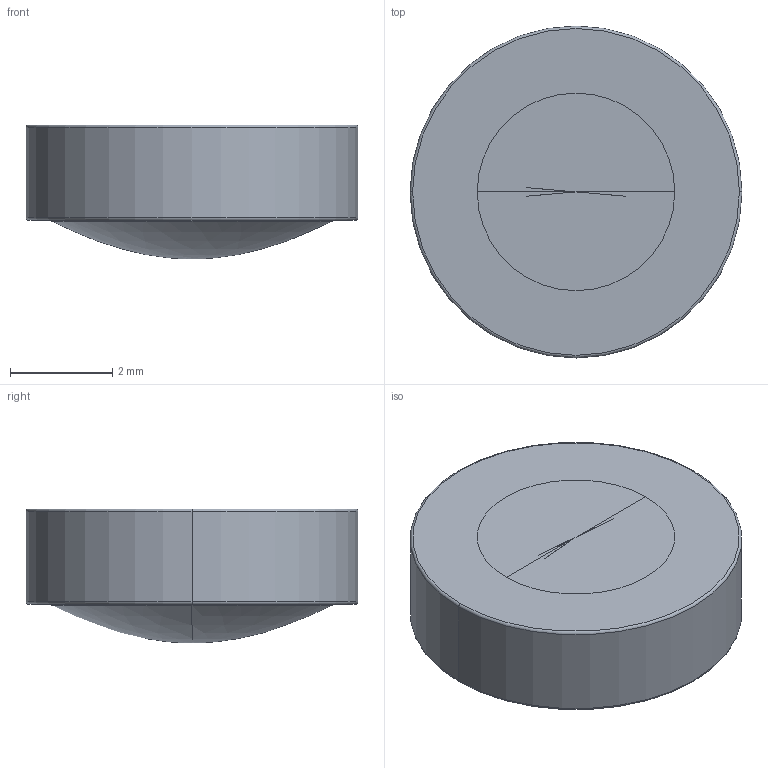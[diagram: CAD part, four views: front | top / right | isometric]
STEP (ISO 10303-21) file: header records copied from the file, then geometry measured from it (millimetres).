
FILE_DESCRIPTION((''),'2;1');
FILE_NAME('390093','2025-07-31T20:25:34',('admin'),('LIGHTPATH'),'CREO PARAMETRIC BY PTC INC, 2024063','CREO PARAMETRIC BY PTC INC, 2024063','');
FILE_SCHEMA(('CONFIG_CONTROL_DESIGN'));
Length unit declared in the file: millimetre
Products named in the file (1): 390093
Bounding box: 6.5 x 6.5 x 2.62 mm (x, y, z)
Volume: 70.9 mm3; surface area: 105.3 mm2
Topology: 1 solids, 1 shells, 14 faces, 30 edges, 16 vertices
Faces by surface type: torus 6, revolution 4, plane 2, cylinder 2
Entity records: 853 total; most frequent: CARTESIAN_POINT 517, DIRECTION 68, ORIENTED_EDGE 52, AXIS2_PLACEMENT_3D 30, EDGE_CURVE 26, CIRCLE 20, VERTEX_POINT 16, EDGE_LOOP 16
